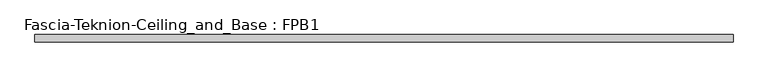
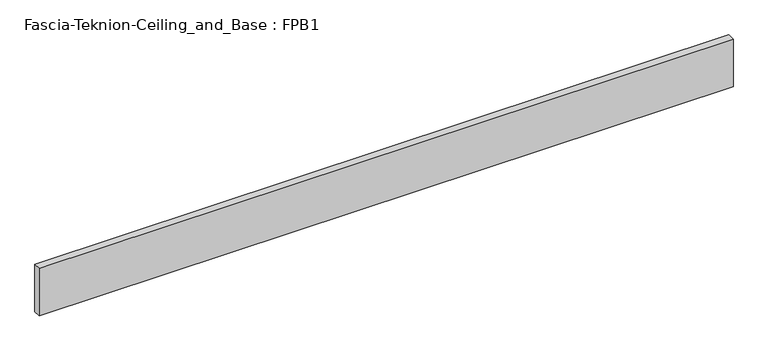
"""IFC4 building model written with IfcOpenShell, lengths in millimetres: proxy geometry, Fascia-Teknion-Ceiling_and_Base : FPB1."""

from ifc_helpers import new_model, si_unit, origin, origin_with_axes, place, context, project, spatial, polyline, outline, extrude, source, transform, mapped, element, save


def fascia_teknion_ceiling_and_base_fpb1_6ffdd3c4(model_context):
    return source(origin(), model_context, "Body", "SweptSolid", [
        extrude(outline(polyline([(911.225, 0.0), (911.225, -19.05), (-911.225, -19.05), (-911.225, 0.0), (911.225, 0.0)])), origin_with_axes(), (0.0, 0.0, 1.0), 132.08),
    ])


if __name__ == "__main__":
    model = new_model("IFC4")
    model_context = context("Model", 3, world=origin())
    ifc_project = project(units=[si_unit("LENGTHUNIT", "METRE", prefix="MILLI")], contexts=[model_context])
    site = spatial("IfcSite", under=ifc_project)
    building = spatial("IfcBuilding", under=site)
    placement = place(None, origin())
    fascia_teknion_ceiling_and_base_fpb1_shape = fascia_teknion_ceiling_and_base_fpb1_6ffdd3c4(model_context)
    element("IfcBuildingElementProxy", 1, Name="Fascia-Teknion-Ceiling_and_Base : FPB1", ObjectType="Fascia-Teknion-Ceiling_and_Base : FPB1", at=placement, inside=building, context=model_context, shape_type="MappedRepresentation", body=[
        mapped(fascia_teknion_ceiling_and_base_fpb1_shape, transform((0.0, 0.0, 0.0), x_axis=(1.0, 0.0, 0.0), y_axis=(0.0, 1.0, 0.0), z_axis=(0.0, 0.0, 1.0))),
    ])
    save(model, "model.ifc")
